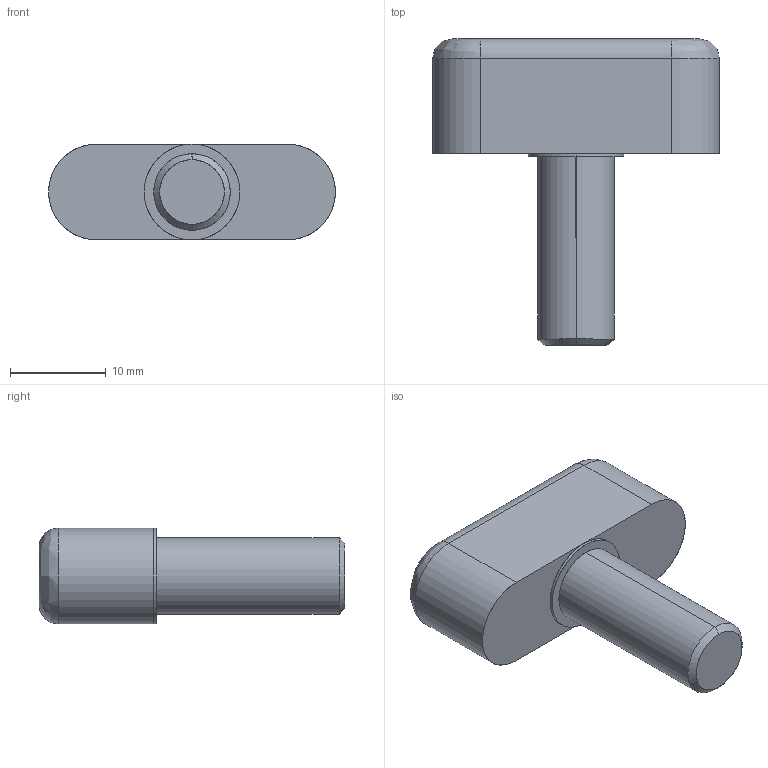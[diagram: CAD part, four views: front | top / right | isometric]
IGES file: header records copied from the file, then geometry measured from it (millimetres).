
Start section: SolidWorks IGES file using analytic representation for surfaces
Global section: file name: C:\Documents and Settings\IanO.IANOHOME\My Documents\Wix and Auto CAD Work\CAD Models\Parametric Models\Wix Models\3738\3738_IGES\3738.W082.igs; native system: SolidWorks 2009; preprocessor: SolidWorks 2009; author: IanO; date: 091209.215724; units: millimetre
Bounding box: 30 x 32 x 10 mm (x, y, z)
Surface area: 1845.9 mm2 (no closed solid volume)
Topology: 0 solids, 0 shells, 19 faces, 256 edges, 256 vertices
Faces by surface type: revolution 10, bspline 9
